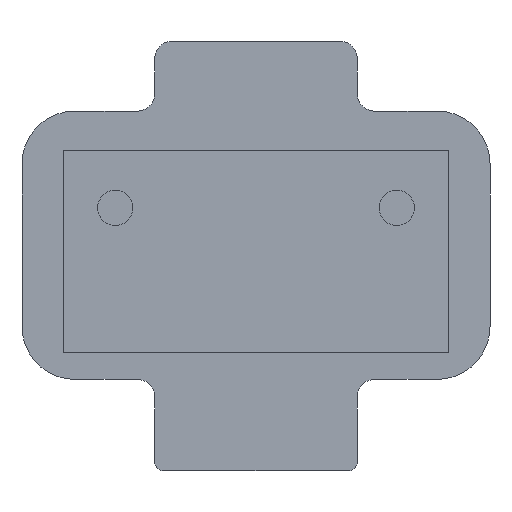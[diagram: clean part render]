
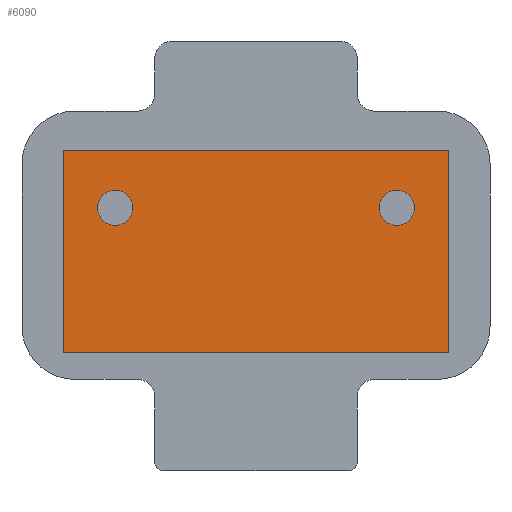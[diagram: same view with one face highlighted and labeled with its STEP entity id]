
A CAD part, front view. The second image highlights one B-rep face of the part: STEP entity #6090.
In plain terms, the highlighted planar face has unit normal (0, -1, 0).
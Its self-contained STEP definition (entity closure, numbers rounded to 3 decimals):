
#7 = CARTESIAN_POINT ( 'NONE',  ( -16.916, 1.162, 57.199 ) ) ;
#140 = DIRECTION ( 'NONE',  ( -1., 0., 0. ) ) ;
#328 = EDGE_LOOP ( 'NONE', ( #7082, #6742, #4139, #6612 ) ) ;
#455 = CARTESIAN_POINT ( 'NONE',  ( 15.084, 1.162, 61.199 ) ) ;
#513 = VERTEX_POINT ( 'NONE', #7 ) ;
#587 = CARTESIAN_POINT ( 'NONE',  ( -16.916, 1.162, 59.199 ) ) ;
#600 = EDGE_CURVE ( 'NONE', #5243, #2101, #3451, .T. ) ;
#623 = AXIS2_PLACEMENT_3D ( 'NONE', #9486, #4281, #5758 ) ;
#883 = DIRECTION ( 'NONE',  ( 0., -1., 0. ) ) ;
#899 = DIRECTION ( 'NONE',  ( 1., 0., 0. ) ) ;
#1033 = CARTESIAN_POINT ( 'NONE',  ( -16.916, 1.162, 61.199 ) ) ;
#1128 = ORIENTED_EDGE ( 'NONE', *, *, #3422, .F. ) ;
#1305 = EDGE_CURVE ( 'NONE', #5128, #513, #8339, .T. ) ;
#1394 = FACE_OUTER_BOUND ( 'NONE', #328, .T. ) ;
#1609 = CARTESIAN_POINT ( 'NONE',  ( -22.816, 1.162, 42.7 ) ) ;
#1703 = LINE ( 'NONE', #5425, #3003 ) ;
#1769 = CARTESIAN_POINT ( 'NONE',  ( -22.816, 1.162, 65.694 ) ) ;
#1938 = AXIS2_PLACEMENT_3D ( 'NONE', #6025, #883, #2404 ) ;
#2077 = DIRECTION ( 'NONE',  ( -1., 0., 0. ) ) ;
#2101 = VERTEX_POINT ( 'NONE', #455 ) ;
#2178 = VERTEX_POINT ( 'NONE', #7358 ) ;
#2304 = CARTESIAN_POINT ( 'NONE',  ( -22.816, 1.162, 65.694 ) ) ;
#2404 = DIRECTION ( 'NONE',  ( -1., 0., 0. ) ) ;
#2486 = LINE ( 'NONE', #9228, #7063 ) ;
#2731 = PLANE ( 'NONE',  #623 ) ;
#2790 = EDGE_CURVE ( 'NONE', #513, #5128, #5846, .T. ) ;
#2817 = DIRECTION ( 'NONE',  ( 0., -1., 0. ) ) ;
#3003 = VECTOR ( 'NONE', #140, 1000. ) ;
#3422 = EDGE_CURVE ( 'NONE', #2101, #5243, #6643, .T. ) ;
#3451 = CIRCLE ( 'NONE', #8012, 2. ) ;
#3543 = ORIENTED_EDGE ( 'NONE', *, *, #1305, .F. ) ;
#4077 = DIRECTION ( 'NONE',  ( 0., 0., 1. ) ) ;
#4115 = AXIS2_PLACEMENT_3D ( 'NONE', #587, #8080, #4249 ) ;
#4139 = ORIENTED_EDGE ( 'NONE', *, *, #5394, .F. ) ;
#4249 = DIRECTION ( 'NONE',  ( -1., 0., 0. ) ) ;
#4274 = CARTESIAN_POINT ( 'NONE',  ( 15.084, 1.162, 59.199 ) ) ;
#4276 = VERTEX_POINT ( 'NONE', #1609 ) ;
#4281 = DIRECTION ( 'NONE',  ( 0., 1., 0. ) ) ;
#4370 = FACE_BOUND ( 'NONE', #6290, .T. ) ;
#4425 = VECTOR ( 'NONE', #899, 1000. ) ;
#4732 = EDGE_CURVE ( 'NONE', #6116, #2178, #2486, .T. ) ;
#4784 = DIRECTION ( 'NONE',  ( 0., 0., 1. ) ) ;
#4976 = FACE_BOUND ( 'NONE', #6829, .T. ) ;
#5128 = VERTEX_POINT ( 'NONE', #1033 ) ;
#5243 = VERTEX_POINT ( 'NONE', #5738 ) ;
#5394 = EDGE_CURVE ( 'NONE', #6116, #4276, #1703, .T. ) ;
#5425 = CARTESIAN_POINT ( 'NONE',  ( 21.584, 1.162, 42.7 ) ) ;
#5505 = CARTESIAN_POINT ( 'NONE',  ( -22.816, 1.162, 44.77 ) ) ;
#5738 = CARTESIAN_POINT ( 'NONE',  ( 15.084, 1.162, 57.199 ) ) ;
#5758 = DIRECTION ( 'NONE',  ( -1., 0., 0. ) ) ;
#5846 = CIRCLE ( 'NONE', #1938, 2. ) ;
#6025 = CARTESIAN_POINT ( 'NONE',  ( -16.916, 1.162, 59.199 ) ) ;
#6090 = ADVANCED_FACE ( 'NONE', ( #1394, #4976, #4370 ), #2731, .F. ) ;
#6116 = VERTEX_POINT ( 'NONE', #7190 ) ;
#6173 = AXIS2_PLACEMENT_3D ( 'NONE', #6879, #8978, #9071 ) ;
#6290 = EDGE_LOOP ( 'NONE', ( #1128, #7212 ) ) ;
#6399 = LINE ( 'NONE', #5505, #6625 ) ;
#6612 = ORIENTED_EDGE ( 'NONE', *, *, #4732, .T. ) ;
#6625 = VECTOR ( 'NONE', #4784, 1000. ) ;
#6643 = CIRCLE ( 'NONE', #6173, 2. ) ;
#6742 = ORIENTED_EDGE ( 'NONE', *, *, #7037, .F. ) ;
#6829 = EDGE_LOOP ( 'NONE', ( #3543, #7282 ) ) ;
#6879 = CARTESIAN_POINT ( 'NONE',  ( 15.084, 1.162, 59.199 ) ) ;
#7037 = EDGE_CURVE ( 'NONE', #4276, #8028, #6399, .T. ) ;
#7063 = VECTOR ( 'NONE', #4077, 1000. ) ;
#7082 = ORIENTED_EDGE ( 'NONE', *, *, #7277, .F. ) ;
#7190 = CARTESIAN_POINT ( 'NONE',  ( 20.984, 1.162, 42.7 ) ) ;
#7212 = ORIENTED_EDGE ( 'NONE', *, *, #600, .F. ) ;
#7277 = EDGE_CURVE ( 'NONE', #8028, #2178, #7567, .T. ) ;
#7282 = ORIENTED_EDGE ( 'NONE', *, *, #2790, .F. ) ;
#7358 = CARTESIAN_POINT ( 'NONE',  ( 20.984, 1.162, 65.694 ) ) ;
#7567 = LINE ( 'NONE', #1769, #4425 ) ;
#8012 = AXIS2_PLACEMENT_3D ( 'NONE', #4274, #2817, #2077 ) ;
#8028 = VERTEX_POINT ( 'NONE', #2304 ) ;
#8080 = DIRECTION ( 'NONE',  ( 0., -1., 0. ) ) ;
#8339 = CIRCLE ( 'NONE', #4115, 2. ) ;
#8978 = DIRECTION ( 'NONE',  ( 0., -1., 0. ) ) ;
#9071 = DIRECTION ( 'NONE',  ( -1., 0., 0. ) ) ;
#9228 = CARTESIAN_POINT ( 'NONE',  ( 20.984, 1.162, 76.47 ) ) ;
#9486 = CARTESIAN_POINT ( 'NONE',  ( -16.362, 1.162, 58.966 ) ) ;
